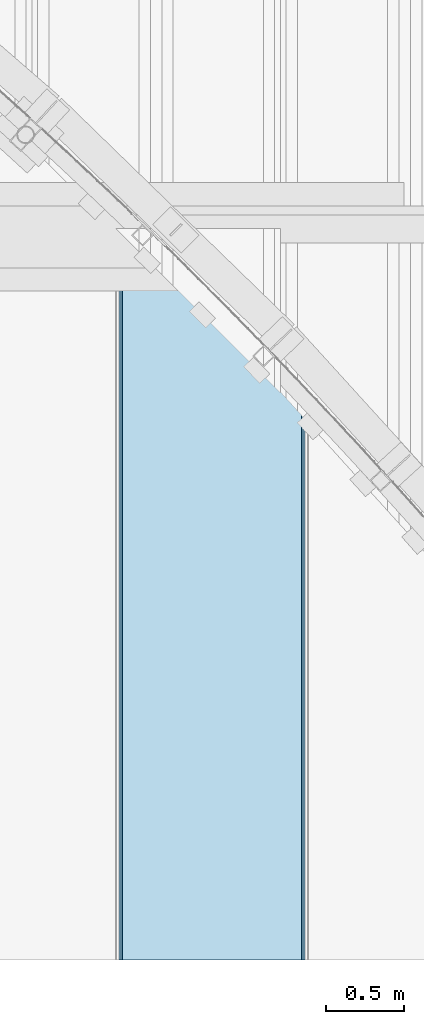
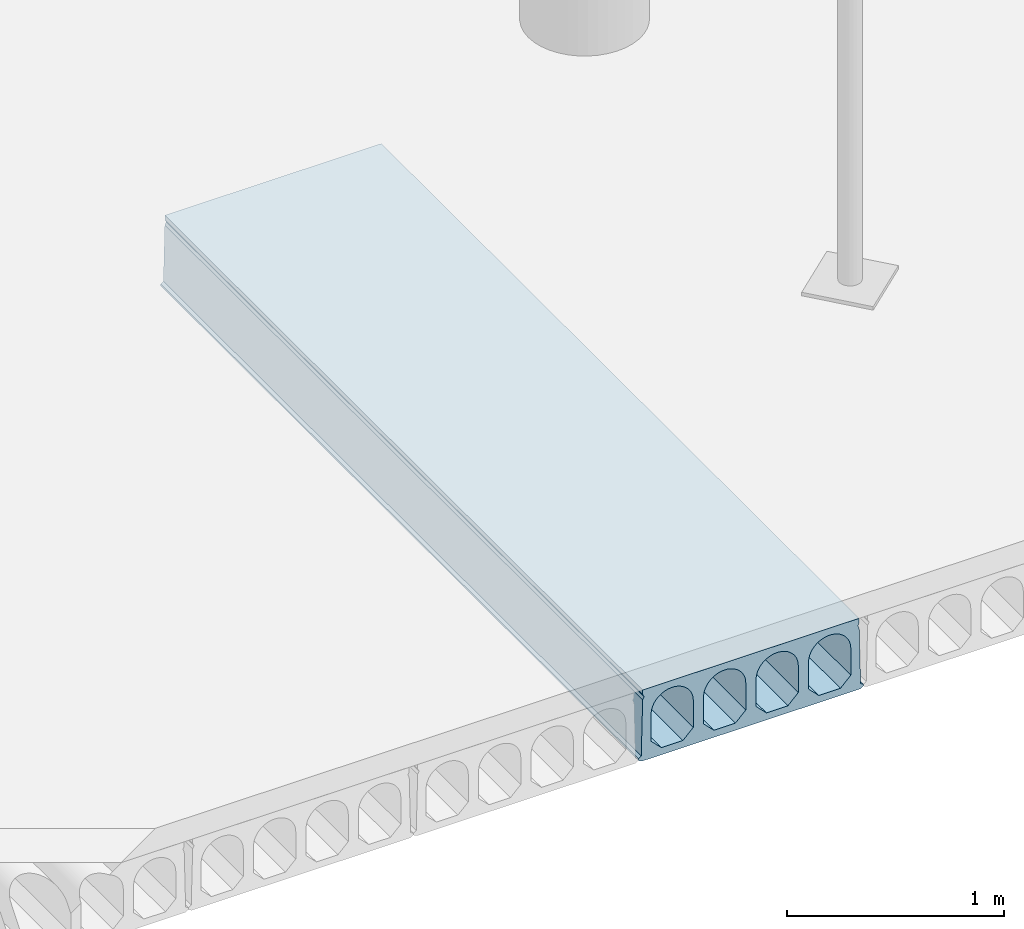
# One storey, part 49 of 98: 1 slab.
"""IFC2X3 building model written with IfcOpenShell, lengths in millimetres."""

from ifc_helpers import new_model, entity, si_unit, converted_unit, derived_unit, direction, frame, origin_with_axes, place, context, subcontext, project, spatial, faceted_brep, type_object, element, save


model = new_model("IFC2X3")

# Units and contexts
model_context = context("Model", 3, precision=0.01, world=frame((0.0, 4.29681676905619e-09, 0.0)), true_north=direction((4.01073788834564e-13, 1.0)))
plan_context = context("Plan", 3, precision=0.01, world=frame((0.0, 4.29681676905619e-09, 0.0)), true_north=direction((4.01073788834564e-13, 1.0)))
body_context = subcontext(model_context, "Body", "Model", "MODEL_VIEW")
ifc_project = project(units=[converted_unit("PLANEANGLEUNIT", "DEGREE", entity("IfcPositiveLengthMeasure", 0.0174532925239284), si_unit("PLANEANGLEUNIT", "RADIAN"), dimensions=[0, 0, 0, 0, 0, 0, 0]), si_unit("AREAUNIT", "SQUARE_METRE"), si_unit("LENGTHUNIT", "METRE", prefix="MILLI"), si_unit("MASSUNIT", "GRAM", prefix="KILO"), si_unit("POWERUNIT", "WATT"), si_unit("PRESSUREUNIT", "PASCAL"), si_unit("FORCEUNIT", "NEWTON", prefix="KILO"), si_unit("ELECTRICCURRENTUNIT", "AMPERE"), si_unit("THERMODYNAMICTEMPERATUREUNIT", "DEGREE_CELSIUS"), si_unit("TIMEUNIT", "SECOND"), si_unit("VOLUMEUNIT", "CUBIC_METRE"), derived_unit("LINEARVELOCITYUNIT", [(si_unit("LENGTHUNIT", "METRE"), 1), (si_unit("TIMEUNIT", "SECOND"), -1)]), derived_unit("VOLUMETRICFLOWRATEUNIT", [(si_unit("VOLUMEUNIT", "CUBIC_METRE"), 1), (si_unit("TIMEUNIT", "SECOND"), -1)]), derived_unit("THERMALTRANSMITTANCEUNIT", [(si_unit("POWERUNIT", "WATT"), 1), (si_unit("THERMODYNAMICTEMPERATUREUNIT", "KELVIN"), -1), (si_unit("AREAUNIT", "SQUARE_METRE"), -1)])], contexts=[model_context, plan_context])

# Site, building, storey
site_placement = place(None, frame((0.0, -4.29681676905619e-09, 0.0), z_axis=(0.0, 0.0, 1.0), x_axis=(1.0, 0.0, 0.0)))
site = spatial("IfcSite", under=ifc_project, at=site_placement, Name="Gardermoen", CompositionType="ELEMENT")
building_placement = place(site_placement, frame((0.0, 4.29681676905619e-09, 0.0), z_axis=(0.0, 0.0, 1.0), x_axis=(1.0, 0.0, 0.0)))
building = spatial("IfcBuilding", under=site, at=building_placement, Name="TS", CompositionType="ELEMENT")
storey_placement = place(building_placement, origin_with_axes())
storey = spatial("IfcBuildingStorey", under=building, at=storey_placement, Name="D", CompositionType="ELEMENT", Elevation=0.0)

# Slab
slab_type = type_object("IfcSlabType", Name="HD400", PredefinedType="NOTDEFINED")
slab_placement = place(storey_placement, frame((527199.999766, 396739.995625, 203600.0), z_axis=(0.0, 0.0, 1.0), x_axis=(0.0, 1.0, 0.0)))
element("IfcSlab", 1, at=slab_placement, inside=storey, type_object=slab_type, Name="HULLDEKKE", ObjectType="HD400", PredefinedType="FLOOR", context=body_context, shape_type="Brep", body=[
    faceted_brep([(4105.68103395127, 600.0, -180.0), (4105.68103395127, 600.0, -190.0), (8520.0, 600.0, -190.0), (8520.0, 600.0, -180.0), (4105.68103395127, 585.0, -170.0), (8520.0, 585.0, -170.0), (4105.68103395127, 577.5, 145.0), (8520.0, 577.5, 145.0), (4105.68103395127, 570.0, 160.0), (8520.0, 570.0, 160.0), (4105.68103395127, 577.5, 175.0), (8520.0, 577.5, 175.0), (4105.68103395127, 577.5, 200.0), (8520.0, 577.5, 200.0), (4105.68103395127, -577.5, 200.0), (8520.0, -577.5, 200.0), (4105.68103395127, -577.5, 175.0), (8520.0, -577.5, 175.0), (4105.68103395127, -570.0, 160.0), (8520.0, -570.0, 160.0), (4105.68103395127, -577.5, 145.0), (8520.0, -577.5, 145.0), (4105.68103395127, -585.0, -170.0), (8520.0, -585.0, -170.0), (4105.68103395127, -600.0, -180.0), (8520.0, -600.0, -180.0), (4105.68103395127, -600.0, -190.0), (8520.0, -600.0, -190.0), (4105.68103395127, -583.380004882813, -200.0), (8520.0, -583.380004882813, -200.0), (4105.68103395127, 583.380004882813, -200.0), (8520.0, 583.380004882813, -200.0), (4105.68103395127, -477.5, -160.0), (4105.68103395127, -362.5, -160.0), (8520.0, -362.5, -160.0), (8520.0, -477.5, -160.0), (4105.68103395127, -532.5, -105.0), (8520.0, -532.5, -105.0), (4105.68103395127, -532.5, 47.5), (8520.0, -532.5, 47.5), (4105.68103395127, -532.115755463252, 56.7901763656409), (8520.0, -532.115755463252, 56.7901763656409), (4105.68103395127, -530.965646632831, 66.0168914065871), (8520.0, -530.965646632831, 66.0168914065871), (4105.68103395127, -529.057529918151, 75.1171173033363), (8520.0, -529.057529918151, 75.1171173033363), (4105.68103395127, -526.404439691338, 84.028690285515), (8520.0, -526.404439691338, 84.028690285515), (4105.68103395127, -523.024499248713, 92.6907352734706), (8520.0, -523.024499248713, 92.6907352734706), (4105.68103395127, -518.940797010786, 101.044081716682), (8520.0, -518.940797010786, 101.044081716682), (4105.68103395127, -514.181228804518, 109.031667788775), (8520.0, -514.181228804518, 109.031667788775), (4105.68103395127, -508.778307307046, 116.598930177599), (8520.0, -508.778307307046, 116.598930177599), (4105.68103395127, -502.768939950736, 123.694176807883), (8520.0, -502.768939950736, 123.694176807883), (4105.68103395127, -496.194176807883, 130.268939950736), (8520.0, -496.194176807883, 130.268939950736), (4105.68103395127, -489.098930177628, 136.278307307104), (8520.0, -489.098930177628, 136.278307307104), (4105.68103395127, -481.531667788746, 141.681228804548), (8520.0, -481.531667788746, 141.681228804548), (4105.68103395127, -473.544081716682, 146.440797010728), (8520.0, -473.544081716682, 146.440797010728), (4105.68103395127, -465.190735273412, 150.524499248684), (8520.0, -465.190735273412, 150.524499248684), (4105.68103395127, -456.528690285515, 153.904439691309), (8520.0, -456.528690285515, 153.904439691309), (4105.68103395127, -447.617117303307, 156.55752991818), (8520.0, -447.617117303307, 156.55752991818), (4105.68103395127, -438.516891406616, 158.465646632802), (8520.0, -438.516891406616, 158.465646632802), (4105.68103395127, -429.290176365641, 159.615755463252), (8520.0, -429.290176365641, 159.615755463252), (4105.68103395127, -420.0, 160.0), (8520.0, -420.0, 160.0), (4105.68103395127, -410.709823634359, 159.615755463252), (8520.0, -410.709823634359, 159.615755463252), (4105.68103395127, -401.483108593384, 158.465646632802), (8520.0, -401.483108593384, 158.465646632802), (4105.68103395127, -392.382882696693, 156.55752991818), (8520.0, -392.382882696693, 156.55752991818), (4105.68103395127, -383.471309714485, 153.904439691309), (8520.0, -383.471309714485, 153.904439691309), (4105.68103395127, -374.809264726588, 150.524499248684), (8520.0, -374.809264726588, 150.524499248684), (4105.68103395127, -366.455918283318, 146.440797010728), (8520.0, -366.455918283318, 146.440797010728), (4105.68103395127, -358.468332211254, 141.681228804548), (8520.0, -358.468332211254, 141.681228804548), (4105.68103395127, -350.901069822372, 136.278307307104), (8520.0, -350.901069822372, 136.278307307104), (4105.68103395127, -343.805823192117, 130.268939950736), (8520.0, -343.805823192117, 130.268939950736), (4105.68103395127, -337.231060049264, 123.694176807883), (8520.0, -337.231060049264, 123.694176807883), (4105.68103395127, -331.221692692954, 116.598930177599), (8520.0, -331.221692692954, 116.598930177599), (4105.68103395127, -325.818771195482, 109.031667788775), (8520.0, -325.818771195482, 109.031667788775), (4105.68103395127, -321.059202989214, 101.044081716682), (8520.0, -321.059202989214, 101.044081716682), (4105.68103395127, -316.975500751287, 92.6907352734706), (8520.0, -316.975500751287, 92.6907352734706), (4105.68103395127, -313.595560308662, 84.028690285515), (8520.0, -313.595560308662, 84.028690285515), (4105.68103395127, -310.942470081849, 75.1171173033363), (8520.0, -310.942470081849, 75.1171173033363), (4105.68103395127, -309.034353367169, 66.0168914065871), (8520.0, -309.034353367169, 66.0168914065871), (4105.68103395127, -307.884244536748, 56.7901763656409), (8520.0, -307.884244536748, 56.7901763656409), (4105.68103395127, -307.5, 47.5), (8520.0, -307.5, 47.5), (4105.68103395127, -307.5, -105.0), (8520.0, -307.5, -105.0), (4105.68103395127, -197.5, -160.0), (4105.68103395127, -82.5, -160.0), (8520.0, -82.5, -160.0), (8520.0, -197.5, -160.0), (4105.68103395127, -252.5, -105.0), (8520.0, -252.5, -105.0), (4105.68103395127, -252.5, 47.5), (8520.0, -252.5, 47.5), (4105.68103395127, -252.115755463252, 56.7901763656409), (8520.0, -252.115755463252, 56.7901763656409), (4105.68103395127, -250.965646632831, 66.0168914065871), (8520.0, -250.965646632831, 66.0168914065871), (4105.68103395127, -249.057529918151, 75.1171173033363), (8520.0, -249.057529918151, 75.1171173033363), (4105.68103395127, -246.404439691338, 84.028690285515), (8520.0, -246.404439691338, 84.028690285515), (4105.68103395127, -243.024499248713, 92.6907352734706), (8520.0, -243.024499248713, 92.6907352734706), (4105.68103395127, -238.940797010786, 101.044081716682), (8520.0, -238.940797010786, 101.044081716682), (4105.68103395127, -234.181228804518, 109.031667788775), (8520.0, -234.181228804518, 109.031667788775), (4105.68103395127, -228.778307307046, 116.598930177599), (8520.0, -228.778307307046, 116.598930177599), (4105.68103395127, -222.768939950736, 123.694176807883), (8520.0, -222.768939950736, 123.694176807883), (4105.68103395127, -216.194176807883, 130.268939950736), (8520.0, -216.194176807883, 130.268939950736), (4105.68103395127, -209.098930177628, 136.278307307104), (8520.0, -209.098930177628, 136.278307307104), (4105.68103395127, -201.531667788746, 141.681228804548), (8520.0, -201.531667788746, 141.681228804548), (4105.68103395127, -193.544081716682, 146.440797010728), (8520.0, -193.544081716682, 146.440797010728), (4105.68103395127, -185.190735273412, 150.524499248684), (8520.0, -185.190735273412, 150.524499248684), (4105.68103395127, -176.528690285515, 153.904439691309), (8520.0, -176.528690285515, 153.904439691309), (4105.68103395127, -167.617117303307, 156.55752991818), (8520.0, -167.617117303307, 156.55752991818), (4105.68103395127, -158.516891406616, 158.465646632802), (8520.0, -158.516891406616, 158.465646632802), (4105.68103395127, -149.290176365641, 159.615755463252), (8520.0, -149.290176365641, 159.615755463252), (4105.68103395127, -140.0, 160.0), (8520.0, -140.0, 160.0), (4105.68103395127, -130.709823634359, 159.615755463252), (8520.0, -130.709823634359, 159.615755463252), (4105.68103395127, -121.483108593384, 158.465646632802), (8520.0, -121.483108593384, 158.465646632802), (4105.68103395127, -112.382882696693, 156.55752991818), (8520.0, -112.382882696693, 156.55752991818), (4105.68103395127, -103.471309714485, 153.904439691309), (8520.0, -103.471309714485, 153.904439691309), (4105.68103395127, -94.8092647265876, 150.524499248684), (8520.0, -94.8092647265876, 150.524499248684), (4105.68103395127, -86.4559182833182, 146.440797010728), (8520.0, -86.4559182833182, 146.440797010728), (4105.68103395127, -78.4683322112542, 141.681228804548), (8520.0, -78.4683322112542, 141.681228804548), (4105.68103395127, -70.9010698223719, 136.278307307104), (8520.0, -70.9010698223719, 136.278307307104), (4105.68103395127, -63.8058231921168, 130.268939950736), (8520.0, -63.8058231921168, 130.268939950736), (4105.68103395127, -57.2310600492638, 123.694176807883), (8520.0, -57.2310600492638, 123.694176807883), (4105.68103395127, -51.2216926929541, 116.598930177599), (8520.0, -51.2216926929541, 116.598930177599), (4105.68103395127, -45.8187711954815, 109.031667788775), (8520.0, -45.8187711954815, 109.031667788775), (4105.68103395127, -41.0592029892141, 101.044081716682), (8520.0, -41.0592029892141, 101.044081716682), (4105.68103395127, -36.9755007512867, 92.6907352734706), (8520.0, -36.9755007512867, 92.6907352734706), (4105.68103395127, -33.5955603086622, 84.028690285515), (8520.0, -33.5955603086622, 84.028690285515), (4105.68103395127, -30.942470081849, 75.1171173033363), (8520.0, -30.942470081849, 75.1171173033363), (4105.68103395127, -29.0343533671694, 66.0168914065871), (8520.0, -29.0343533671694, 66.0168914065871), (4105.68103395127, -27.8842445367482, 56.7901763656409), (8520.0, -27.8842445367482, 56.7901763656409), (4105.68103395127, -27.5, 47.5), (8520.0, -27.5, 47.5), (4105.68103395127, -27.5, -105.0), (8520.0, -27.5, -105.0), (4105.68103395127, 82.5, -160.0), (4105.68103395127, 197.5, -160.0), (8520.0, 197.5, -160.0), (8520.0, 82.5, -160.0), (4105.68103395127, 27.5, -105.0), (8520.0, 27.5, -105.0), (4105.68103395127, 27.5, 47.5), (8520.0, 27.5, 47.5), (4105.68103395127, 27.8842445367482, 56.7901763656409), (8520.0, 27.8842445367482, 56.7901763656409), (4105.68103395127, 29.0343533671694, 66.0168914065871), (8520.0, 29.0343533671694, 66.0168914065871), (4105.68103395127, 30.942470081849, 75.1171173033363), (8520.0, 30.942470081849, 75.1171173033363), (4105.68103395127, 33.5955603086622, 84.028690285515), (8520.0, 33.5955603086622, 84.028690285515), (4105.68103395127, 36.9755007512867, 92.6907352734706), (8520.0, 36.9755007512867, 92.6907352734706), (4105.68103395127, 41.0592029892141, 101.044081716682), (8520.0, 41.0592029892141, 101.044081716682), (4105.68103395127, 45.8187711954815, 109.031667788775), (8520.0, 45.8187711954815, 109.031667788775), (4105.68103395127, 51.2216926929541, 116.598930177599), (8520.0, 51.2216926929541, 116.598930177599), (4105.68103395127, 57.2310600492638, 123.694176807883), (8520.0, 57.2310600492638, 123.694176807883), (4105.68103395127, 63.8058231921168, 130.268939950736), (8520.0, 63.8058231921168, 130.268939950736), (4105.68103395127, 70.9010698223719, 136.278307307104), (8520.0, 70.9010698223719, 136.278307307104), (4105.68103395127, 78.4683322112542, 141.681228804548), (8520.0, 78.4683322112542, 141.681228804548), (4105.68103395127, 86.4559182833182, 146.440797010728), (8520.0, 86.4559182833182, 146.440797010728), (4105.68103395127, 94.8092647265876, 150.524499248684), (8520.0, 94.8092647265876, 150.524499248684), (4105.68103395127, 103.471309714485, 153.904439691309), (8520.0, 103.471309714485, 153.904439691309), (4105.68103395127, 112.382882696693, 156.55752991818), (8520.0, 112.382882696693, 156.55752991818), (4105.68103395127, 121.483108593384, 158.465646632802), (8520.0, 121.483108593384, 158.465646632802), (4105.68103395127, 130.709823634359, 159.615755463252), (8520.0, 130.709823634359, 159.615755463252), (4105.68103395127, 140.0, 160.0), (8520.0, 140.0, 160.0), (4105.68103395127, 149.290176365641, 159.615755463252), (8520.0, 149.290176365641, 159.615755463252), (4105.68103395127, 158.516891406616, 158.465646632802), (8520.0, 158.516891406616, 158.465646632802), (4105.68103395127, 167.617117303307, 156.55752991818), (8520.0, 167.617117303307, 156.55752991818), (4105.68103395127, 176.528690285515, 153.904439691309), (8520.0, 176.528690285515, 153.904439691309), (4105.68103395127, 185.190735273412, 150.524499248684), (8520.0, 185.190735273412, 150.524499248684), (4105.68103395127, 193.544081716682, 146.440797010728), (8520.0, 193.544081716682, 146.440797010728), (4105.68103395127, 201.531667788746, 141.681228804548), (8520.0, 201.531667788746, 141.681228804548), (4105.68103395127, 209.098930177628, 136.278307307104), (8520.0, 209.098930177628, 136.278307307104), (4105.68103395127, 216.194176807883, 130.268939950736), (8520.0, 216.194176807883, 130.268939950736), (4105.68103395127, 222.768939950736, 123.694176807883), (8520.0, 222.768939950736, 123.694176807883), (4105.68103395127, 228.778307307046, 116.598930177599), (8520.0, 228.778307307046, 116.598930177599), (4105.68103395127, 234.181228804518, 109.031667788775), (8520.0, 234.181228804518, 109.031667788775), (4105.68103395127, 238.940797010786, 101.044081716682), (8520.0, 238.940797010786, 101.044081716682), (4105.68103395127, 243.024499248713, 92.6907352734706), (8520.0, 243.024499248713, 92.6907352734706), (4105.68103395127, 246.404439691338, 84.028690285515), (8520.0, 246.404439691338, 84.028690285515), (4105.68103395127, 249.057529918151, 75.1171173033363), (8520.0, 249.057529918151, 75.1171173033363), (4105.68103395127, 250.965646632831, 66.0168914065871), (8520.0, 250.965646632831, 66.0168914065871), (4105.68103395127, 252.115755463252, 56.7901763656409), (8520.0, 252.115755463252, 56.7901763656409), (4105.68103395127, 252.5, 47.5), (8520.0, 252.5, 47.5), (4105.68103395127, 252.5, -105.0), (8520.0, 252.5, -105.0), (4105.68103395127, 362.5, -160.0), (4105.68103395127, 477.5, -160.0), (8520.0, 477.5, -160.0), (8520.0, 362.5, -160.0), (4105.68103395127, 307.5, -105.0), (8520.0, 307.5, -105.0), (4105.68103395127, 307.5, 47.5), (8520.0, 307.5, 47.5), (4105.68103395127, 307.884244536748, 56.7901763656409), (8520.0, 307.884244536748, 56.7901763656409), (4105.68103395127, 309.034353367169, 66.0168914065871), (8520.0, 309.034353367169, 66.0168914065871), (4105.68103395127, 310.942470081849, 75.1171173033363), (8520.0, 310.942470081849, 75.1171173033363), (4105.68103395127, 313.595560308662, 84.028690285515), (8520.0, 313.595560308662, 84.028690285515), (4105.68103395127, 316.975500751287, 92.6907352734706), (8520.0, 316.975500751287, 92.6907352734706), (4105.68103395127, 321.059202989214, 101.044081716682), (8520.0, 321.059202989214, 101.044081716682), (4105.68103395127, 325.818771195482, 109.031667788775), (8520.0, 325.818771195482, 109.031667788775), (4105.68103395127, 331.221692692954, 116.598930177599), (8520.0, 331.221692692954, 116.598930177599), (4105.68103395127, 337.231060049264, 123.694176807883), (8520.0, 337.231060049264, 123.694176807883), (4105.68103395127, 343.805823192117, 130.268939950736), (8520.0, 343.805823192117, 130.268939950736), (4105.68103395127, 350.901069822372, 136.278307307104), (8520.0, 350.901069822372, 136.278307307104), (4105.68103395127, 358.468332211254, 141.681228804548), (8520.0, 358.468332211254, 141.681228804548), (4105.68103395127, 366.455918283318, 146.440797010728), (8520.0, 366.455918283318, 146.440797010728), (4105.68103395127, 374.809264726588, 150.524499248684), (8520.0, 374.809264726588, 150.524499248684), (4105.68103395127, 383.471309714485, 153.904439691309), (8520.0, 383.471309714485, 153.904439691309), (4105.68103395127, 392.382882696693, 156.55752991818), (8520.0, 392.382882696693, 156.55752991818), (4105.68103395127, 401.483108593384, 158.465646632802), (8520.0, 401.483108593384, 158.465646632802), (4105.68103395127, 410.709823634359, 159.615755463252), (8520.0, 410.709823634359, 159.615755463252), (4105.68103395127, 420.0, 160.0), (8520.0, 420.0, 160.0), (4105.68103395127, 429.290176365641, 159.615755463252), (8520.0, 429.290176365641, 159.615755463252), (4105.68103395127, 438.516891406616, 158.465646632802), (8520.0, 438.516891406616, 158.465646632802), (4105.68103395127, 447.617117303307, 156.55752991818), (8520.0, 447.617117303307, 156.55752991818), (4105.68103395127, 456.528690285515, 153.904439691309), (8520.0, 456.528690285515, 153.904439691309), (4105.68103395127, 465.190735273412, 150.524499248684), (8520.0, 465.190735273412, 150.524499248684), (4105.68103395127, 473.544081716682, 146.440797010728), (8520.0, 473.544081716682, 146.440797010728), (4105.68103395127, 481.531667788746, 141.681228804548), (8520.0, 481.531667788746, 141.681228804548), (4105.68103395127, 489.098930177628, 136.278307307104), (8520.0, 489.098930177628, 136.278307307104), (4105.68103395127, 496.194176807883, 130.268939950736), (8520.0, 496.194176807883, 130.268939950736), (4105.68103395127, 502.768939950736, 123.694176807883), (8520.0, 502.768939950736, 123.694176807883), (4105.68103395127, 508.778307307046, 116.598930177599), (8520.0, 508.778307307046, 116.598930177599), (4105.68103395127, 514.181228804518, 109.031667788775), (8520.0, 514.181228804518, 109.031667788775), (4105.68103395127, 518.940797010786, 101.044081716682), (8520.0, 518.940797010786, 101.044081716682), (4105.68103395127, 523.024499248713, 92.6907352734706), (8520.0, 523.024499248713, 92.6907352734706), (4105.68103395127, 526.404439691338, 84.028690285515), (8520.0, 526.404439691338, 84.028690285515), (4105.68103395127, 529.057529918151, 75.1171173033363), (8520.0, 529.057529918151, 75.1171173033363), (4105.68103395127, 530.965646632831, 66.0168914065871), (8520.0, 530.965646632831, 66.0168914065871), (4105.68103395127, 532.115755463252, 56.7901763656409), (8520.0, 532.115755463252, 56.7901763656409), (4105.68103395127, 532.5, 47.5), (8520.0, 532.5, 47.5), (4105.68103395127, 532.5, -105.0), (8520.0, 532.5, -105.0)], [[[0, 1, 2, 3]], [[4, 0, 3, 5]], [[6, 4, 5, 7]], [[8, 6, 7, 9]], [[10, 8, 9, 11]], [[12, 10, 11, 13]], [[14, 12, 13, 15]], [[16, 14, 15, 17]], [[18, 16, 17, 19]], [[20, 18, 19, 21]], [[22, 20, 21, 23]], [[24, 22, 23, 25]], [[26, 24, 25, 27]], [[28, 26, 27, 29]], [[30, 28, 29, 31]], [[1, 30, 31, 2]], [[32, 33, 34, 35]], [[36, 32, 35, 37]], [[38, 36, 37, 39]], [[40, 38, 39, 41]], [[42, 40, 41, 43]], [[44, 42, 43, 45]], [[46, 44, 45, 47]], [[48, 46, 47, 49]], [[50, 48, 49, 51]], [[52, 50, 51, 53]], [[54, 52, 53, 55]], [[56, 54, 55, 57]], [[58, 56, 57, 59]], [[60, 58, 59, 61]], [[62, 60, 61, 63]], [[64, 62, 63, 65]], [[66, 64, 65, 67]], [[68, 66, 67, 69]], [[70, 68, 69, 71]], [[72, 70, 71, 73]], [[74, 72, 73, 75]], [[76, 74, 75, 77]], [[78, 76, 77, 79]], [[80, 78, 79, 81]], [[82, 80, 81, 83]], [[84, 82, 83, 85]], [[86, 84, 85, 87]], [[88, 86, 87, 89]], [[90, 88, 89, 91]], [[92, 90, 91, 93]], [[94, 92, 93, 95]], [[96, 94, 95, 97]], [[98, 96, 97, 99]], [[100, 98, 99, 101]], [[102, 100, 101, 103]], [[104, 102, 103, 105]], [[106, 104, 105, 107]], [[108, 106, 107, 109]], [[110, 108, 109, 111]], [[112, 110, 111, 113]], [[114, 112, 113, 115]], [[116, 114, 115, 117]], [[33, 116, 117, 34]], [[118, 119, 120, 121]], [[122, 118, 121, 123]], [[124, 122, 123, 125]], [[126, 124, 125, 127]], [[128, 126, 127, 129]], [[130, 128, 129, 131]], [[132, 130, 131, 133]], [[134, 132, 133, 135]], [[136, 134, 135, 137]], [[138, 136, 137, 139]], [[140, 138, 139, 141]], [[142, 140, 141, 143]], [[144, 142, 143, 145]], [[146, 144, 145, 147]], [[148, 146, 147, 149]], [[150, 148, 149, 151]], [[152, 150, 151, 153]], [[154, 152, 153, 155]], [[156, 154, 155, 157]], [[158, 156, 157, 159]], [[160, 158, 159, 161]], [[162, 160, 161, 163]], [[164, 162, 163, 165]], [[166, 164, 165, 167]], [[168, 166, 167, 169]], [[170, 168, 169, 171]], [[172, 170, 171, 173]], [[174, 172, 173, 175]], [[176, 174, 175, 177]], [[178, 176, 177, 179]], [[180, 178, 179, 181]], [[182, 180, 181, 183]], [[184, 182, 183, 185]], [[186, 184, 185, 187]], [[188, 186, 187, 189]], [[190, 188, 189, 191]], [[192, 190, 191, 193]], [[194, 192, 193, 195]], [[196, 194, 195, 197]], [[198, 196, 197, 199]], [[200, 198, 199, 201]], [[202, 200, 201, 203]], [[119, 202, 203, 120]], [[204, 205, 206, 207]], [[208, 204, 207, 209]], [[210, 208, 209, 211]], [[212, 210, 211, 213]], [[214, 212, 213, 215]], [[216, 214, 215, 217]], [[218, 216, 217, 219]], [[220, 218, 219, 221]], [[222, 220, 221, 223]], [[224, 222, 223, 225]], [[226, 224, 225, 227]], [[228, 226, 227, 229]], [[230, 228, 229, 231]], [[232, 230, 231, 233]], [[234, 232, 233, 235]], [[236, 234, 235, 237]], [[238, 236, 237, 239]], [[240, 238, 239, 241]], [[242, 240, 241, 243]], [[244, 242, 243, 245]], [[246, 244, 245, 247]], [[248, 246, 247, 249]], [[250, 248, 249, 251]], [[252, 250, 251, 253]], [[254, 252, 253, 255]], [[256, 254, 255, 257]], [[258, 256, 257, 259]], [[260, 258, 259, 261]], [[262, 260, 261, 263]], [[264, 262, 263, 265]], [[266, 264, 265, 267]], [[268, 266, 267, 269]], [[270, 268, 269, 271]], [[272, 270, 271, 273]], [[274, 272, 273, 275]], [[276, 274, 275, 277]], [[278, 276, 277, 279]], [[280, 278, 279, 281]], [[282, 280, 281, 283]], [[284, 282, 283, 285]], [[286, 284, 285, 287]], [[288, 286, 287, 289]], [[205, 288, 289, 206]], [[290, 291, 292, 293]], [[294, 290, 293, 295]], [[296, 294, 295, 297]], [[298, 296, 297, 299]], [[300, 298, 299, 301]], [[302, 300, 301, 303]], [[304, 302, 303, 305]], [[306, 304, 305, 307]], [[308, 306, 307, 309]], [[310, 308, 309, 311]], [[312, 310, 311, 313]], [[314, 312, 313, 315]], [[316, 314, 315, 317]], [[318, 316, 317, 319]], [[320, 318, 319, 321]], [[322, 320, 321, 323]], [[324, 322, 323, 325]], [[326, 324, 325, 327]], [[328, 326, 327, 329]], [[330, 328, 329, 331]], [[332, 330, 331, 333]], [[334, 332, 333, 335]], [[336, 334, 335, 337]], [[338, 336, 337, 339]], [[340, 338, 339, 341]], [[342, 340, 341, 343]], [[344, 342, 343, 345]], [[346, 344, 345, 347]], [[348, 346, 347, 349]], [[350, 348, 349, 351]], [[352, 350, 351, 353]], [[354, 352, 353, 355]], [[356, 354, 355, 357]], [[358, 356, 357, 359]], [[360, 358, 359, 361]], [[362, 360, 361, 363]], [[364, 362, 363, 365]], [[366, 364, 365, 367]], [[368, 366, 367, 369]], [[370, 368, 369, 371]], [[372, 370, 371, 373]], [[374, 372, 373, 375]], [[291, 374, 375, 292]], [[3, 2, 31, 29, 27, 25, 23, 21, 19, 17, 15, 13, 11, 9, 7, 5], [293, 292, 375, 373, 371, 369, 367, 365, 363, 361, 359, 357, 355, 353, 351, 349, 347, 345, 343, 341, 339, 337, 335, 333, 331, 329, 327, 325, 323, 321, 319, 317, 315, 313, 311, 309, 307, 305, 303, 301, 299, 297, 295], [207, 206, 289, 287, 285, 283, 281, 279, 277, 275, 273, 271, 269, 267, 265, 263, 261, 259, 257, 255, 253, 251, 249, 247, 245, 243, 241, 239, 237, 235, 233, 231, 229, 227, 225, 223, 221, 219, 217, 215, 213, 211, 209], [121, 120, 203, 201, 199, 197, 195, 193, 191, 189, 187, 185, 183, 181, 179, 177, 175, 173, 171, 169, 167, 165, 163, 161, 159, 157, 155, 153, 151, 149, 147, 145, 143, 141, 139, 137, 135, 133, 131, 129, 127, 125, 123], [35, 34, 117, 115, 113, 111, 109, 107, 105, 103, 101, 99, 97, 95, 93, 91, 89, 87, 85, 83, 81, 79, 77, 75, 73, 71, 69, 67, 65, 63, 61, 59, 57, 55, 53, 51, 49, 47, 45, 43, 41, 39, 37]], [[4, 6, 8, 10, 12, 14, 16, 18, 20, 22, 24, 26, 28, 30, 1, 0], [36, 38, 40, 42, 44, 46, 48, 50, 52, 54, 56, 58, 60, 62, 64, 66, 68, 70, 72, 74, 76, 78, 80, 82, 84, 86, 88, 90, 92, 94, 96, 98, 100, 102, 104, 106, 108, 110, 112, 114, 116, 33, 32], [122, 124, 126, 128, 130, 132, 134, 136, 138, 140, 142, 144, 146, 148, 150, 152, 154, 156, 158, 160, 162, 164, 166, 168, 170, 172, 174, 176, 178, 180, 182, 184, 186, 188, 190, 192, 194, 196, 198, 200, 202, 119, 118], [208, 210, 212, 214, 216, 218, 220, 222, 224, 226, 228, 230, 232, 234, 236, 238, 240, 242, 244, 246, 248, 250, 252, 254, 256, 258, 260, 262, 264, 266, 268, 270, 272, 274, 276, 278, 280, 282, 284, 286, 288, 205, 204], [294, 296, 298, 300, 302, 304, 306, 308, 310, 312, 314, 316, 318, 320, 322, 324, 326, 328, 330, 332, 334, 336, 338, 340, 342, 344, 346, 348, 350, 352, 354, 356, 358, 360, 362, 364, 366, 368, 370, 372, 374, 291, 290]]], orient=[[False], [False], [False], [False], [False], [False], [False], [False], [False], [False], [False], [False], [False], [False], [False], [False], [False], [False], [False], [False], [False], [False], [False], [False], [False], [False], [False], [False], [False], [False], [False], [False], [False], [False], [False], [False], [False], [False], [False], [False], [False], [False], [False], [False], [False], [False], [False], [False], [False], [False], [False], [False], [False], [False], [False], [False], [False], [False], [False], [False], [False], [False], [False], [False], [False], [False], [False], [False], [False], [False], [False], [False], [False], [False], [False], [False], [False], [False], [False], [False], [False], [False], [False], [False], [False], [False], [False], [False], [False], [False], [False], [False], [False], [False], [False], [False], [False], [False], [False], [False], [False], [False], [False], [False], [False], [False], [False], [False], [False], [False], [False], [False], [False], [False], [False], [False], [False], [False], [False], [False], [False], [False], [False], [False], [False], [False], [False], [False], [False], [False], [False], [False], [False], [False], [False], [False], [False], [False], [False], [False], [False], [False], [False], [False], [False], [False], [False], [False], [False], [False], [False], [False], [False], [False], [False], [False], [False], [False], [False], [False], [False], [False], [False], [False], [False], [False], [False], [False], [False], [False], [False], [False], [False], [False], [False], [False], [False], [False], [False], [False], [False], [False], [False], [False], [False], [False], [False], [False], [False, False, False, False, False], [False, False, False, False, False]]),
])

save(model, "model.ifc")
